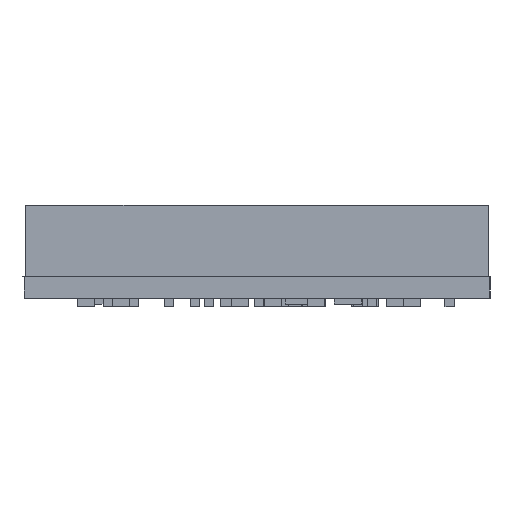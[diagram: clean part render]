
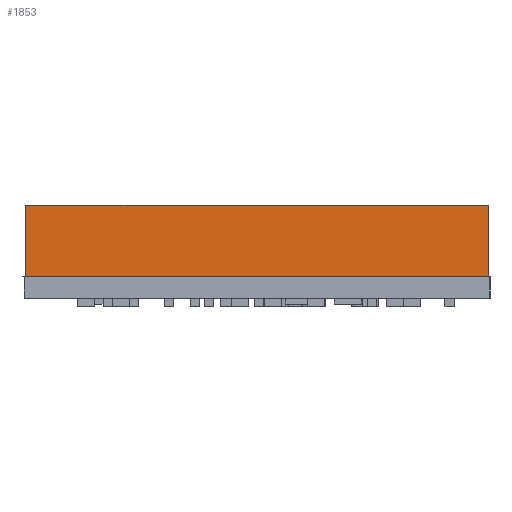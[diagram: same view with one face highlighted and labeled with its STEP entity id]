
A CAD part, left-side view. The second image highlights one B-rep face of the part: STEP entity #1853.
In plain terms, the highlighted planar face has unit normal (-1, 0, 0).
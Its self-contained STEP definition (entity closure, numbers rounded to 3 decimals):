
#1853=ADVANCED_FACE('',(#3965),#3966,.T.);
#3965=FACE_OUTER_BOUND('',#6232,.T.);
#3966=PLANE('',#6233);
#6232=EDGE_LOOP('',(#11542,#11543,#11544,#11545));
#6233=AXIS2_PLACEMENT_3D('',#11546,#11547,#11548);
#11542=ORIENTED_EDGE('',*,*,#13435,.F.);
#11543=ORIENTED_EDGE('',*,*,#12882,.T.);
#11544=ORIENTED_EDGE('',*,*,#14232,.T.);
#11545=ORIENTED_EDGE('',*,*,#14468,.F.);
#11546=CARTESIAN_POINT('',(-55.4,15.0,1.41));
#11547=DIRECTION('',(-1.0,0.,0.0));
#11548=DIRECTION('',(0.,-1.0,0.0));
#12882=EDGE_CURVE('',#15290,#15294,#15296,.T.);
#13435=EDGE_CURVE('',#15290,#16274,#16275,.T.);
#14232=EDGE_CURVE('',#15294,#17539,#17540,.T.);
#14468=EDGE_CURVE('',#16274,#17539,#17842,.T.);
#15290=VERTEX_POINT('',#18804);
#15294=VERTEX_POINT('',#18810);
#15296=LINE('',#18813,#18814);
#16274=VERTEX_POINT('',#20261);
#16275=LINE('',#20262,#20263);
#17539=VERTEX_POINT('',#22151);
#17540=LINE('',#22152,#22153);
#17842=LINE('',#22604,#22605);
#18804=CARTESIAN_POINT('',(-55.4,0.1,1.41));
#18810=CARTESIAN_POINT('',(-55.4,0.1,6.01));
#18813=CARTESIAN_POINT('',(-55.4,0.1,1.41));
#18814=VECTOR('',#23774,1.0);
#20261=CARTESIAN_POINT('',(-55.4,29.9,1.41));
#20262=CARTESIAN_POINT('',(-55.4,15.0,1.41));
#20263=VECTOR('',#24250,1.0);
#22151=CARTESIAN_POINT('',(-55.4,29.9,6.01));
#22152=CARTESIAN_POINT('',(-55.4,29.9,6.01));
#22153=VECTOR('',#24950,1.0);
#22604=CARTESIAN_POINT('',(-55.4,29.9,1.41));
#22605=VECTOR('',#25106,1.0);
#23774=DIRECTION('',(0.0,0.0,1.0));
#24250=DIRECTION('',(0.,1.0,-0.0));
#24950=DIRECTION('',(0.,1.0,0.0));
#25106=DIRECTION('',(0.0,0.0,1.0));
